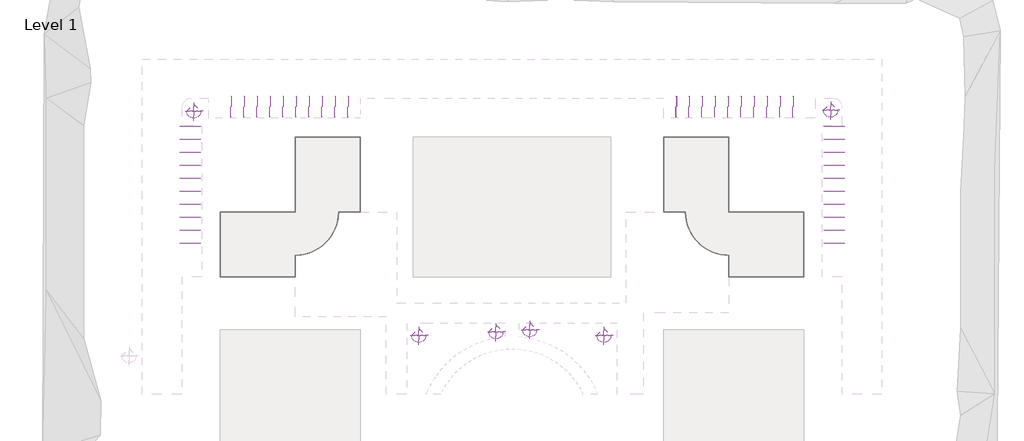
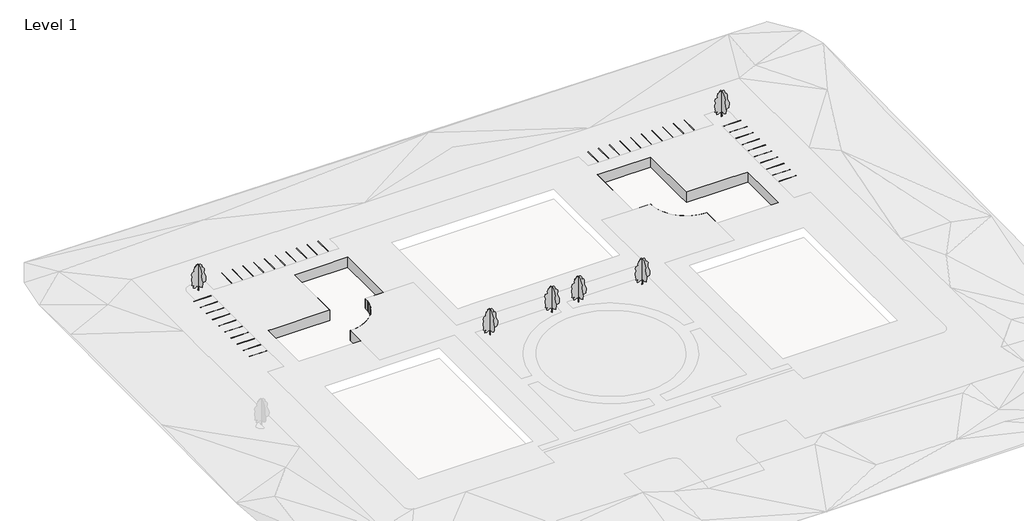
# One storey, part 3 of 3: 43 proxies, 6 geographic elements.
"""IFC4 building model written with IfcOpenShell, lengths in millimetres."""

from ifc_helpers import new_model, si_unit, origin, place, context, project, spatial, triangles, transform, mapped, element, save
from components import m_parking_space_4800_x_2400mm_90_deg_2b7ae786, m_parking_space_4800_x_2400mm_90_deg_cf846cf7, m_rpc_tree_deciduous_red_ash_7_6_meters_40acba24

model = new_model("IFC4")

# Units and contexts
model_context = context("Model", 3, world=origin())
ifc_project = project(units=[si_unit("LENGTHUNIT", "METRE", prefix="MILLI")], contexts=[model_context])

# Site, building, storey
site = spatial("IfcSite", under=ifc_project)
building = spatial("IfcBuilding", under=site)
storey = spatial("IfcBuildingStorey", under=building, Name="Level 1", Elevation=0.0)

# Proxies
placement = place(None, origin())
element("IfcBuildingElementProxy", 1, Name="Building Element Proxy", at=placement, inside=storey, context=model_context, shape_type="Tessellation", body=[
    triangles([(-35191.6798462, 32541.3578979, -304.9595106), (-35191.6798462, 32541.3578979, 3049.9998779), (-35191.6798462, 48882.337207, -304.9595106), (-35191.6798462, 48882.337207, 3049.9998779), (-35191.6798462, 49849.357251, -304.9595106), (-35191.6798462, 49849.357251, 3049.9998779), (-43466.7003296, 49849.357251, -304.9595106), (-43466.7003296, 49849.357251, 3049.9998779), (-50191.680542, 49849.357251, -304.9595106), (-50191.680542, 49849.357251, 3049.9998779), (-50191.680542, 44684.7283081, -304.9595106), (-50191.680542, 44684.7283081, 3049.9998779), (-50191.680542, 32541.3578979, -304.9595106), (-50191.680542, 32541.3578979, 3049.9998779), (-66003.8409668, 32541.3578979, -304.9595106), (-66003.8409668, 32541.3578979, 3049.9998779), (-67499.679895, 32541.3578979, -304.9595106), (-67499.679895, 32541.3578979, 3049.9998779), (-67499.679895, 31392.5861572, -304.9595106), (-67499.679895, 31392.5861572, 3049.9998779), (-67499.679895, 17541.3572021, -304.9595106), (-67499.679895, 17541.3572021, 3049.9998779)], [[1, 4, 2], [1, 3, 4], [3, 6, 4], [3, 5, 6], [5, 8, 6], [5, 7, 8], [7, 10, 8], [7, 9, 10], [9, 12, 10], [9, 11, 12], [11, 14, 12], [11, 13, 14], [13, 16, 14], [13, 15, 16], [15, 18, 16], [15, 17, 18], [17, 20, 18], [17, 19, 20], [19, 22, 20], [19, 21, 22]], closed=False),
    triangles([(-67499.679895, 17541.3572021, -304.9595106), (-67499.679895, 17541.3572021, 3049.9998779), (-60277.078894, 17541.3572021, -304.9595106), (-60277.078894, 17541.3572021, 3049.9998779), (-50191.680542, 17541.3572021, -304.9595106), (-50191.680542, 17541.3572021, 3049.9998779)], [[1, 4, 2], [1, 3, 4], [3, 6, 4], [3, 5, 6]], closed=False),
    triangles([(-50191.680542, 17541.3572021, -304.9595106), (-50191.680542, 17541.3572021, 3049.9998779), (-50191.680542, 22541.3566589, -304.9595106), (-50191.680542, 22541.3566589, 3049.9998779), (-49211.5078125, 22589.5095337, -304.9595106), (-49211.5078125, 22589.5095337, 3049.9998779), (-48240.7763672, 22733.5053955, -304.9595106), (-48240.7763672, 22733.5053955, 3049.9998779), (-47288.8344727, 22971.9536316, -304.9595106), (-47288.8344727, 22971.9536316, 3049.9998779), (-46364.8443604, 23302.5613586, -304.9595106), (-46364.8443604, 23302.5613586, 3049.9998779), (-45477.7124634, 23722.14505, -304.9595106), (-45477.7124634, 23722.14505, 3049.9998779), (-44635.9777954, 24226.6607666, -304.9595106), (-44635.9777954, 24226.6607666, 3049.9998779), (-43847.7468384, 24811.2529907, -304.9595106), (-43847.7468384, 24811.2529907, 3049.9998779), (-43120.6144775, 25470.2895081, -304.9595106), (-43120.6144775, 25470.2895081, 3049.9998779), (-42461.5756348, 26197.4241943, -304.9595106), (-42461.5756348, 26197.4241943, 3049.9998779), (-41876.9834106, 26985.6551514, -304.9595106), (-41876.9834106, 26985.6551514, 3049.9998779), (-41372.4700195, 27827.3898193, -304.9595106), (-41372.4700195, 27827.3898193, 3049.9998779), (-40952.8863281, 28714.5240417, -304.9595106), (-40952.8863281, 28714.5240417, 3049.9998779), (-40622.2786011, 29638.5095032, -304.9595106), (-40622.2786011, 29638.5095032, 3049.9998779), (-40383.8280396, 30590.4537231, -304.9595106), (-40383.8280396, 30590.4537231, 3049.9998779), (-40239.8321777, 31561.1851685, -304.9595106), (-40239.8321777, 31561.1851685, 3049.9998779), (-40191.6816284, 32541.3578979, -304.9595106), (-40191.6816284, 32541.3578979, 3049.9998779), (-35191.6798462, 32541.3578979, -304.9595106), (-35191.6798462, 32541.3578979, 3049.9998779)], [[1, 4, 2], [1, 3, 4], [3, 6, 4], [3, 5, 6], [5, 8, 6], [5, 7, 8], [7, 10, 8], [7, 9, 10], [9, 12, 10], [9, 11, 12], [11, 14, 12], [11, 13, 14], [13, 16, 14], [13, 15, 16], [15, 18, 16], [15, 17, 18], [17, 20, 18], [17, 19, 20], [19, 22, 20], [19, 21, 22], [21, 24, 22], [21, 23, 24], [23, 26, 24], [23, 25, 26], [25, 28, 26], [25, 27, 28], [27, 30, 28], [27, 29, 30], [29, 32, 30], [29, 31, 32], [31, 34, 32], [31, 33, 34], [33, 36, 34], [33, 35, 36], [35, 38, 36], [35, 37, 38]], closed=False),
    triangles([(-67499.679895, 17541.3572021, -304.9595106), (-50191.680542, 17541.3572021, -304.9595106), (-50191.680542, 22541.3566589, -304.9595106), (-49211.5078125, 22589.5095337, -304.9595106), (-48240.7763672, 22733.5053955, -304.9595106), (-47288.8344727, 22971.9536316, -304.9595106), (-46364.8443604, 23302.5613586, -304.9595106), (-45477.7124634, 23722.14505, -304.9595106), (-44635.9777954, 24226.6607666, -304.9595106), (-43847.7468384, 24811.2529907, -304.9595106), (-43120.6144775, 25470.2895081, -304.9595106), (-42461.5756348, 26197.4241943, -304.9595106), (-41876.9834106, 26985.6551514, -304.9595106), (-41372.4700195, 27827.3898193, -304.9595106), (-40952.8863281, 28714.5240417, -304.9595106), (-40622.2786011, 29638.5095032, -304.9595106), (-40383.8280396, 30590.4537231, -304.9595106), (-40239.8321777, 31561.1851685, -304.9595106), (-40191.6816284, 32541.3578979, -304.9595106), (-35191.6798462, 32541.3578979, -304.9595106), (-35191.6798462, 49849.357251, -304.9595106), (-50191.680542, 49849.357251, -304.9595106), (-50191.680542, 32541.3578979, -304.9595106), (-67499.679895, 32541.3578979, -304.9595106)], [[1, 2, 3], [1, 3, 24], [23, 4, 5], [4, 23, 3], [23, 5, 6], [24, 3, 23], [19, 22, 23], [8, 9, 23], [8, 23, 7], [6, 7, 23], [10, 23, 9], [23, 11, 12], [23, 12, 13], [14, 15, 23], [14, 23, 13], [15, 16, 23], [17, 18, 23], [23, 18, 19], [19, 20, 21], [21, 22, 19], [23, 16, 17], [23, 10, 11]], closed=False),
])
element("IfcBuildingElementProxy", 2, Name="Building Element Proxy", at=placement, inside=storey, context=model_context, shape_type="Tessellation", body=[
    triangles([(49808.3178955, 17541.3572021, -304.9595106), (49808.3178955, 17541.3572021, 3049.9998779), (67116.3172485, 17541.3572021, -304.9595106), (67116.3172485, 17541.3572021, 3049.9998779)], [[1, 4, 2], [1, 3, 4]], closed=False),
    triangles([(67116.3172485, 17541.3572021, -304.9595106), (67116.3172485, 17541.3572021, 3049.9998779), (67116.3172485, 23284.5205994, -304.9595106), (67116.3172485, 23284.5205994, 3049.9998779), (67116.3172485, 32541.3578979, -304.9595106), (67116.3172485, 32541.3578979, 3049.9998779), (62183.8555298, 32541.3578979, -304.9595106), (62183.8555298, 32541.3578979, 3049.9998779), (49808.3178955, 32541.3578979, -304.9595106), (49808.3178955, 32541.3578979, 3049.9998779), (49808.3178955, 49849.357251, -304.9595106), (49808.3178955, 49849.357251, 3049.9998779), (40850.0833008, 49849.357251, -304.9595106), (40850.0833008, 49849.357251, 3049.9998779), (34808.3195251, 49849.357251, -304.9595106), (34808.3195251, 49849.357251, 3049.9998779), (34808.3195251, 32541.3578979, -304.9595106), (34808.3195251, 32541.3578979, 3049.9998779)], [[1, 4, 2], [1, 3, 4], [3, 6, 4], [3, 5, 6], [5, 8, 6], [5, 7, 8], [7, 10, 8], [7, 9, 10], [9, 12, 10], [9, 11, 12], [11, 14, 12], [11, 13, 14], [13, 16, 14], [13, 15, 16], [15, 18, 16], [15, 17, 18]], closed=False),
    triangles([(34808.3195251, 32541.3578979, -304.9595106), (34808.3195251, 32541.3578979, 3049.9998779), (38450.1437439, 32541.3578979, -304.9595106), (38450.1437439, 32541.3578979, 3049.9998779), (39808.3189819, 32541.3578979, -304.9595106), (39808.3189819, 32541.3578979, 3049.9998779), (39856.4695313, 31561.1851685, -304.9595106), (39856.4695313, 31561.1851685, 3049.9998779), (40000.4653931, 30590.4537231, -304.9595106), (40000.4653931, 30590.4537231, 3049.9998779), (40238.9159546, 29638.5095032, -304.9595106), (40238.9159546, 29638.5095032, 3049.9998779), (40569.5236816, 28714.5240417, -304.9595106), (40569.5236816, 28714.5240417, 3049.9998779), (40989.107373, 27827.3898193, -304.9595106), (40989.107373, 27827.3898193, 3049.9998779), (41493.6207642, 26985.6551514, -304.9595106), (41493.6207642, 26985.6551514, 3049.9998779), (42078.2129883, 26197.4241943, -304.9595106), (42078.2129883, 26197.4241943, 3049.9998779), (42737.2518311, 25470.2895081, -304.9595106), (42737.2518311, 25470.2895081, 3049.9998779), (43464.3841919, 24811.2529907, -304.9595106), (43464.3841919, 24811.2529907, 3049.9998779), (44252.6151489, 24226.6607666, -304.9595106), (44252.6151489, 24226.6607666, 3049.9998779), (45094.3498169, 23722.14505, -304.9595106), (45094.3498169, 23722.14505, 3049.9998779), (45981.4863647, 23302.5613586, -304.9595106), (45981.4863647, 23302.5613586, 3049.9998779), (46905.4718262, 22971.9536316, -304.9595106), (46905.4718262, 22971.9536316, 3049.9998779), (47857.4137207, 22733.5053955, -304.9595106), (47857.4137207, 22733.5053955, 3049.9998779), (48828.1498169, 22589.5095337, -304.9595106), (48828.1498169, 22589.5095337, 3049.9998779), (49808.3178955, 22541.3566589, -304.9595106), (49808.3178955, 22541.3566589, 3049.9998779), (49808.3178955, 17541.3572021, -304.9595106), (49808.3178955, 17541.3572021, 3049.9998779)], [[1, 4, 2], [1, 3, 4], [3, 6, 4], [3, 5, 6], [5, 8, 6], [5, 7, 8], [7, 10, 8], [7, 9, 10], [9, 12, 10], [9, 11, 12], [11, 14, 12], [11, 13, 14], [13, 16, 14], [13, 15, 16], [15, 18, 16], [15, 17, 18], [17, 20, 18], [17, 19, 20], [19, 22, 20], [19, 21, 22], [21, 24, 22], [21, 23, 24], [23, 26, 24], [23, 25, 26], [25, 28, 26], [25, 27, 28], [27, 30, 28], [27, 29, 30], [29, 32, 30], [29, 31, 32], [31, 34, 32], [31, 33, 34], [33, 36, 34], [33, 35, 36], [35, 38, 36], [35, 37, 38], [37, 40, 38], [37, 39, 40]], closed=False),
    triangles([(67116.3172485, 17541.3572021, -304.9595106), (67116.3172485, 32541.3578979, -304.9595106), (49808.3178955, 32541.3578979, -304.9595106), (49808.3178955, 49849.357251, -304.9595106), (34808.3195251, 49849.357251, -304.9595106), (34808.3195251, 32541.3578979, -304.9595106), (39808.3189819, 32541.3578979, -304.9595106), (39856.4695313, 31561.1851685, -304.9595106), (40000.4653931, 30590.4537231, -304.9595106), (40238.9159546, 29638.5095032, -304.9595106), (40569.5236816, 28714.5240417, -304.9595106), (40989.107373, 27827.3898193, -304.9595106), (41493.6207642, 26985.6551514, -304.9595106), (42078.2129883, 26197.4241943, -304.9595106), (42737.2518311, 25470.2895081, -304.9595106), (43464.3841919, 24811.2529907, -304.9595106), (44252.6151489, 24226.6607666, -304.9595106), (45094.3498169, 23722.14505, -304.9595106), (45981.4863647, 23302.5613586, -304.9595106), (46905.4718262, 22971.9536316, -304.9595106), (47857.4137207, 22733.5053955, -304.9595106), (48828.1498169, 22589.5095337, -304.9595106), (49808.3178955, 22541.3566589, -304.9595106), (49808.3178955, 17541.3572021, -304.9595106)], [[11, 3, 10], [11, 12, 3], [14, 3, 13], [3, 12, 13], [15, 3, 14], [5, 6, 7], [4, 5, 7], [3, 8, 9], [8, 3, 7], [10, 3, 9], [3, 15, 16], [21, 3, 20], [22, 3, 21], [24, 1, 23], [23, 1, 2], [23, 3, 22], [3, 17, 18], [3, 18, 19], [4, 7, 3], [3, 19, 20], [23, 2, 3], [3, 16, 17]], closed=False),
])
m_parking_space_4800_x_2400mm_90_deg_shape = m_parking_space_4800_x_2400mm_90_deg_2b7ae786(model_context)
element("IfcBuildingElementProxy", 3, Name="M_Parking Space : 4800 x 2400mm - 90 deg", ObjectType="M_Parking Space : 4800 x 2400mm - 90 deg", at=placement, inside=storey, context=model_context, shape_type="MappedRepresentation", body=[
    mapped(m_parking_space_4800_x_2400mm_90_deg_shape, transform((-72091.6809312, 52283.3477296, 3050.7803686), x_axis=(0.0, -1.0, 0.0), y_axis=(1.0, 0.0, 0.0), z_axis=(0.0, 0.0, 1.0))),
])
element("IfcBuildingElementProxy", 4, Name="M_Parking Space : 4800 x 2400mm - 90 deg", ObjectType="M_Parking Space : 4800 x 2400mm - 90 deg", at=placement, inside=storey, context=model_context, shape_type="MappedRepresentation", body=[
    mapped(m_parking_space_4800_x_2400mm_90_deg_shape, transform((-72091.6809312, 49283.3477296, 3050.7803686), x_axis=(0.0, -1.0, 0.0), y_axis=(1.0, 0.0, 0.0), z_axis=(0.0, 0.0, 1.0))),
])
element("IfcBuildingElementProxy", 5, Name="M_Parking Space : 4800 x 2400mm - 90 deg", ObjectType="M_Parking Space : 4800 x 2400mm - 90 deg", at=placement, inside=storey, context=model_context, shape_type="MappedRepresentation", body=[
    mapped(m_parking_space_4800_x_2400mm_90_deg_shape, transform((-72091.6809312, 46283.3477296, 3050.7803686), x_axis=(0.0, -1.0, 0.0), y_axis=(1.0, 0.0, 0.0), z_axis=(0.0, 0.0, 1.0))),
])
element("IfcBuildingElementProxy", 6, Name="M_Parking Space : 4800 x 2400mm - 90 deg", ObjectType="M_Parking Space : 4800 x 2400mm - 90 deg", at=placement, inside=storey, context=model_context, shape_type="MappedRepresentation", body=[
    mapped(m_parking_space_4800_x_2400mm_90_deg_shape, transform((-72091.6809312, 43283.3477296, 3050.7803686), x_axis=(0.0, -1.0, 0.0), y_axis=(1.0, 0.0, 0.0), z_axis=(0.0, 0.0, 1.0))),
])
element("IfcBuildingElementProxy", 7, Name="M_Parking Space : 4800 x 2400mm - 90 deg", ObjectType="M_Parking Space : 4800 x 2400mm - 90 deg", at=placement, inside=storey, context=model_context, shape_type="MappedRepresentation", body=[
    mapped(m_parking_space_4800_x_2400mm_90_deg_shape, transform((-72091.6809312, 40283.3477296, 3050.7803686), x_axis=(0.0, -1.0, 0.0), y_axis=(1.0, 0.0, 0.0), z_axis=(0.0, 0.0, 1.0))),
])
element("IfcBuildingElementProxy", 8, Name="M_Parking Space : 4800 x 2400mm - 90 deg", ObjectType="M_Parking Space : 4800 x 2400mm - 90 deg", at=placement, inside=storey, context=model_context, shape_type="MappedRepresentation", body=[
    mapped(m_parking_space_4800_x_2400mm_90_deg_shape, transform((-72091.6809312, 37283.3477296, 3050.7803686), x_axis=(0.0, -1.0, 0.0), y_axis=(1.0, 0.0, 0.0), z_axis=(0.0, 0.0, 1.0))),
])
element("IfcBuildingElementProxy", 9, Name="M_Parking Space : 4800 x 2400mm - 90 deg", ObjectType="M_Parking Space : 4800 x 2400mm - 90 deg", at=placement, inside=storey, context=model_context, shape_type="MappedRepresentation", body=[
    mapped(m_parking_space_4800_x_2400mm_90_deg_shape, transform((-72091.6809312, 34283.3477296, 3050.7803686), x_axis=(0.0, -1.0, 0.0), y_axis=(1.0, 0.0, 0.0), z_axis=(0.0, 0.0, 1.0))),
])
element("IfcBuildingElementProxy", 10, Name="M_Parking Space : 4800 x 2400mm - 90 deg", ObjectType="M_Parking Space : 4800 x 2400mm - 90 deg", at=placement, inside=storey, context=model_context, shape_type="MappedRepresentation", body=[
    mapped(m_parking_space_4800_x_2400mm_90_deg_shape, transform((-72091.6809312, 31283.3477296, 3050.7803686), x_axis=(0.0, -1.0, 0.0), y_axis=(1.0, 0.0, 0.0), z_axis=(0.0, 0.0, 1.0))),
])
element("IfcBuildingElementProxy", 11, Name="M_Parking Space : 4800 x 2400mm - 90 deg", ObjectType="M_Parking Space : 4800 x 2400mm - 90 deg", at=placement, inside=storey, context=model_context, shape_type="MappedRepresentation", body=[
    mapped(m_parking_space_4800_x_2400mm_90_deg_shape, transform((-72091.6809312, 28283.3477296, 3050.7803686), x_axis=(0.0, -1.0, 0.0), y_axis=(1.0, 0.0, 0.0), z_axis=(0.0, 0.0, 1.0))),
])
element("IfcBuildingElementProxy", 12, Name="M_Parking Space : 4800 x 2400mm - 90 deg", ObjectType="M_Parking Space : 4800 x 2400mm - 90 deg", at=placement, inside=storey, context=model_context, shape_type="MappedRepresentation", body=[
    mapped(m_parking_space_4800_x_2400mm_90_deg_shape, transform((-72091.6809312, 25283.3477296, 3050.7803686), x_axis=(0.0, -1.0, 0.0), y_axis=(1.0, 0.0, 0.0), z_axis=(0.0, 0.0, 1.0))),
])
element("IfcBuildingElementProxy", 13, Name="M_Parking Space : 4800 x 2400mm - 90 deg", ObjectType="M_Parking Space : 4800 x 2400mm - 90 deg", at=placement, inside=storey, context=model_context, shape_type="MappedRepresentation", body=[
    mapped(m_parking_space_4800_x_2400mm_90_deg_shape, transform((37727.0851752, 54488.1216781, 2766.1912155), x_axis=(-1.0, 0.0, 0.0), y_axis=(0.0, -1.0, 0.0), z_axis=(0.0, 0.0, 1.0))),
])
element("IfcBuildingElementProxy", 14, Name="M_Parking Space : 4800 x 2400mm - 90 deg", ObjectType="M_Parking Space : 4800 x 2400mm - 90 deg", at=placement, inside=storey, context=model_context, shape_type="MappedRepresentation", body=[
    mapped(m_parking_space_4800_x_2400mm_90_deg_shape, transform((37676.2851752, 54488.1216781, 3050.7803686), x_axis=(-1.0, 0.0, 0.0), y_axis=(0.0, -1.0, 0.0), z_axis=(0.0, 0.0, 1.0))),
])
element("IfcBuildingElementProxy", 15, Name="M_Parking Space : 4800 x 2400mm - 90 deg", ObjectType="M_Parking Space : 4800 x 2400mm - 90 deg", at=placement, inside=storey, context=model_context, shape_type="MappedRepresentation", body=[
    mapped(m_parking_space_4800_x_2400mm_90_deg_shape, transform((40676.2851752, 54488.1216781, 3050.7803686), x_axis=(-1.0, 0.0, 0.0), y_axis=(0.0, -1.0, 0.0), z_axis=(0.0, 0.0, 1.0))),
])
element("IfcBuildingElementProxy", 16, Name="M_Parking Space : 4800 x 2400mm - 90 deg", ObjectType="M_Parking Space : 4800 x 2400mm - 90 deg", at=placement, inside=storey, context=model_context, shape_type="MappedRepresentation", body=[
    mapped(m_parking_space_4800_x_2400mm_90_deg_shape, transform((43676.2851752, 54488.1216781, 3050.7803686), x_axis=(-1.0, 0.0, 0.0), y_axis=(0.0, -1.0, 0.0), z_axis=(0.0, 0.0, 1.0))),
])
element("IfcBuildingElementProxy", 17, Name="M_Parking Space : 4800 x 2400mm - 90 deg", ObjectType="M_Parking Space : 4800 x 2400mm - 90 deg", at=placement, inside=storey, context=model_context, shape_type="MappedRepresentation", body=[
    mapped(m_parking_space_4800_x_2400mm_90_deg_shape, transform((46676.2851752, 54488.1216781, 3050.7803686), x_axis=(-1.0, 0.0, 0.0), y_axis=(0.0, -1.0, 0.0), z_axis=(0.0, 0.0, 1.0))),
])
element("IfcBuildingElementProxy", 18, Name="M_Parking Space : 4800 x 2400mm - 90 deg", ObjectType="M_Parking Space : 4800 x 2400mm - 90 deg", at=placement, inside=storey, context=model_context, shape_type="MappedRepresentation", body=[
    mapped(m_parking_space_4800_x_2400mm_90_deg_shape, transform((49676.2851752, 54488.1216781, 3050.7803686), x_axis=(-1.0, 0.0, 0.0), y_axis=(0.0, -1.0, 0.0), z_axis=(0.0, 0.0, 1.0))),
])
element("IfcBuildingElementProxy", 19, Name="M_Parking Space : 4800 x 2400mm - 90 deg", ObjectType="M_Parking Space : 4800 x 2400mm - 90 deg", at=placement, inside=storey, context=model_context, shape_type="MappedRepresentation", body=[
    mapped(m_parking_space_4800_x_2400mm_90_deg_shape, transform((52676.2851752, 54488.1216781, 3050.7803686), x_axis=(-1.0, 0.0, 0.0), y_axis=(0.0, -1.0, 0.0), z_axis=(0.0, 0.0, 1.0))),
])
element("IfcBuildingElementProxy", 20, Name="M_Parking Space : 4800 x 2400mm - 90 deg", ObjectType="M_Parking Space : 4800 x 2400mm - 90 deg", at=placement, inside=storey, context=model_context, shape_type="MappedRepresentation", body=[
    mapped(m_parking_space_4800_x_2400mm_90_deg_shape, transform((55676.2851752, 54488.1216781, 3050.7803686), x_axis=(-1.0, 0.0, 0.0), y_axis=(0.0, -1.0, 0.0), z_axis=(0.0, 0.0, 1.0))),
])
element("IfcBuildingElementProxy", 21, Name="M_Parking Space : 4800 x 2400mm - 90 deg", ObjectType="M_Parking Space : 4800 x 2400mm - 90 deg", at=placement, inside=storey, context=model_context, shape_type="MappedRepresentation", body=[
    mapped(m_parking_space_4800_x_2400mm_90_deg_shape, transform((58676.2851752, 54488.1216781, 3050.7803686), x_axis=(-1.0, 0.0, 0.0), y_axis=(0.0, -1.0, 0.0), z_axis=(0.0, 0.0, 1.0))),
])
element("IfcBuildingElementProxy", 22, Name="M_Parking Space : 4800 x 2400mm - 90 deg", ObjectType="M_Parking Space : 4800 x 2400mm - 90 deg", at=placement, inside=storey, context=model_context, shape_type="MappedRepresentation", body=[
    mapped(m_parking_space_4800_x_2400mm_90_deg_shape, transform((61676.2851752, 54488.1216781, 3050.7803686), x_axis=(-1.0, 0.0, 0.0), y_axis=(0.0, -1.0, 0.0), z_axis=(0.0, 0.0, 1.0))),
])
element("IfcBuildingElementProxy", 23, Name="M_Parking Space : 4800 x 2400mm - 90 deg", ObjectType="M_Parking Space : 4800 x 2400mm - 90 deg", at=placement, inside=storey, context=model_context, shape_type="MappedRepresentation", body=[
    mapped(m_parking_space_4800_x_2400mm_90_deg_shape, transform((64676.2851752, 54488.1216781, 3050.7803686), x_axis=(-1.0, 0.0, 0.0), y_axis=(0.0, -1.0, 0.0), z_axis=(0.0, 0.0, 1.0))),
])
m_parking_space_4800_x_2400mm_90_deg_2_shape = m_parking_space_4800_x_2400mm_90_deg_cf846cf7(model_context)
element("IfcBuildingElementProxy", 24, Name="M_Parking Space : 4800 x 2400mm - 90 deg", ObjectType="M_Parking Space : 4800 x 2400mm - 90 deg", at=placement, inside=storey, context=model_context, shape_type="MappedRepresentation", body=[
    mapped(m_parking_space_4800_x_2400mm_90_deg_2_shape, transform((71708.3190688, 52283.3477296, 3050.7803686), x_axis=(0.0, -1.0, 0.0), y_axis=(1.0, 0.0, 0.0), z_axis=(0.0, 0.0, 1.0))),
])
element("IfcBuildingElementProxy", 25, Name="M_Parking Space : 4800 x 2400mm - 90 deg", ObjectType="M_Parking Space : 4800 x 2400mm - 90 deg", at=placement, inside=storey, context=model_context, shape_type="MappedRepresentation", body=[
    mapped(m_parking_space_4800_x_2400mm_90_deg_2_shape, transform((71708.3190688, 49283.3477296, 3050.7803686), x_axis=(0.0, -1.0, 0.0), y_axis=(1.0, 0.0, 0.0), z_axis=(0.0, 0.0, 1.0))),
])
element("IfcBuildingElementProxy", 26, Name="M_Parking Space : 4800 x 2400mm - 90 deg", ObjectType="M_Parking Space : 4800 x 2400mm - 90 deg", at=placement, inside=storey, context=model_context, shape_type="MappedRepresentation", body=[
    mapped(m_parking_space_4800_x_2400mm_90_deg_2_shape, transform((71708.3190688, 46283.3477296, 3050.7803686), x_axis=(0.0, -1.0, 0.0), y_axis=(1.0, 0.0, 0.0), z_axis=(0.0, 0.0, 1.0))),
])
element("IfcBuildingElementProxy", 27, Name="M_Parking Space : 4800 x 2400mm - 90 deg", ObjectType="M_Parking Space : 4800 x 2400mm - 90 deg", at=placement, inside=storey, context=model_context, shape_type="MappedRepresentation", body=[
    mapped(m_parking_space_4800_x_2400mm_90_deg_2_shape, transform((71708.3190688, 43283.3477296, 3050.7803686), x_axis=(0.0, -1.0, 0.0), y_axis=(1.0, 0.0, 0.0), z_axis=(0.0, 0.0, 1.0))),
])
element("IfcBuildingElementProxy", 28, Name="M_Parking Space : 4800 x 2400mm - 90 deg", ObjectType="M_Parking Space : 4800 x 2400mm - 90 deg", at=placement, inside=storey, context=model_context, shape_type="MappedRepresentation", body=[
    mapped(m_parking_space_4800_x_2400mm_90_deg_2_shape, transform((71708.3190688, 40283.3477296, 3050.7803686), x_axis=(0.0, -1.0, 0.0), y_axis=(1.0, 0.0, 0.0), z_axis=(0.0, 0.0, 1.0))),
])
element("IfcBuildingElementProxy", 29, Name="M_Parking Space : 4800 x 2400mm - 90 deg", ObjectType="M_Parking Space : 4800 x 2400mm - 90 deg", at=placement, inside=storey, context=model_context, shape_type="MappedRepresentation", body=[
    mapped(m_parking_space_4800_x_2400mm_90_deg_2_shape, transform((71708.3190688, 37283.3477296, 3050.7803686), x_axis=(0.0, -1.0, 0.0), y_axis=(1.0, 0.0, 0.0), z_axis=(0.0, 0.0, 1.0))),
])
element("IfcBuildingElementProxy", 30, Name="M_Parking Space : 4800 x 2400mm - 90 deg", ObjectType="M_Parking Space : 4800 x 2400mm - 90 deg", at=placement, inside=storey, context=model_context, shape_type="MappedRepresentation", body=[
    mapped(m_parking_space_4800_x_2400mm_90_deg_2_shape, transform((71708.3190688, 34283.3477296, 3050.7803686), x_axis=(0.0, -1.0, 0.0), y_axis=(1.0, 0.0, 0.0), z_axis=(0.0, 0.0, 1.0))),
])
element("IfcBuildingElementProxy", 31, Name="M_Parking Space : 4800 x 2400mm - 90 deg", ObjectType="M_Parking Space : 4800 x 2400mm - 90 deg", at=placement, inside=storey, context=model_context, shape_type="MappedRepresentation", body=[
    mapped(m_parking_space_4800_x_2400mm_90_deg_2_shape, transform((71708.3190688, 31283.3477296, 3050.7803686), x_axis=(0.0, -1.0, 0.0), y_axis=(1.0, 0.0, 0.0), z_axis=(0.0, 0.0, 1.0))),
])
element("IfcBuildingElementProxy", 32, Name="M_Parking Space : 4800 x 2400mm - 90 deg", ObjectType="M_Parking Space : 4800 x 2400mm - 90 deg", at=placement, inside=storey, context=model_context, shape_type="MappedRepresentation", body=[
    mapped(m_parking_space_4800_x_2400mm_90_deg_2_shape, transform((71708.3190688, 28283.3477296, 3050.7803686), x_axis=(0.0, -1.0, 0.0), y_axis=(1.0, 0.0, 0.0), z_axis=(0.0, 0.0, 1.0))),
])
element("IfcBuildingElementProxy", 33, Name="M_Parking Space : 4800 x 2400mm - 90 deg", ObjectType="M_Parking Space : 4800 x 2400mm - 90 deg", at=placement, inside=storey, context=model_context, shape_type="MappedRepresentation", body=[
    mapped(m_parking_space_4800_x_2400mm_90_deg_2_shape, transform((71708.3190688, 25283.3477296, 3050.7803686), x_axis=(0.0, -1.0, 0.0), y_axis=(1.0, 0.0, 0.0), z_axis=(0.0, 0.0, 1.0))),
])
element("IfcBuildingElementProxy", 34, Name="M_Parking Space : 4800 x 2400mm - 90 deg", ObjectType="M_Parking Space : 4800 x 2400mm - 90 deg", at=placement, inside=storey, context=model_context, shape_type="MappedRepresentation", body=[
    mapped(m_parking_space_4800_x_2400mm_90_deg_2_shape, transform((-38059.6470376, 54488.1216781, 3050.7803686), x_axis=(1.0, 0.0, 0.0), y_axis=(0.0, 1.0, 0.0), z_axis=(0.0, 0.0, 1.0))),
])
element("IfcBuildingElementProxy", 35, Name="M_Parking Space : 4800 x 2400mm - 90 deg", ObjectType="M_Parking Space : 4800 x 2400mm - 90 deg", at=placement, inside=storey, context=model_context, shape_type="MappedRepresentation", body=[
    mapped(m_parking_space_4800_x_2400mm_90_deg_2_shape, transform((-41059.6470376, 54488.1216781, 3050.7803686), x_axis=(1.0, 0.0, 0.0), y_axis=(0.0, 1.0, 0.0), z_axis=(0.0, 0.0, 1.0))),
])
element("IfcBuildingElementProxy", 36, Name="M_Parking Space : 4800 x 2400mm - 90 deg", ObjectType="M_Parking Space : 4800 x 2400mm - 90 deg", at=placement, inside=storey, context=model_context, shape_type="MappedRepresentation", body=[
    mapped(m_parking_space_4800_x_2400mm_90_deg_2_shape, transform((-44059.6470376, 54488.1216781, 3050.7803686), x_axis=(1.0, 0.0, 0.0), y_axis=(0.0, 1.0, 0.0), z_axis=(0.0, 0.0, 1.0))),
])
element("IfcBuildingElementProxy", 37, Name="M_Parking Space : 4800 x 2400mm - 90 deg", ObjectType="M_Parking Space : 4800 x 2400mm - 90 deg", at=placement, inside=storey, context=model_context, shape_type="MappedRepresentation", body=[
    mapped(m_parking_space_4800_x_2400mm_90_deg_2_shape, transform((-47059.6470376, 54488.1216781, 3050.7803686), x_axis=(1.0, 0.0, 0.0), y_axis=(0.0, 1.0, 0.0), z_axis=(0.0, 0.0, 1.0))),
])
element("IfcBuildingElementProxy", 38, Name="M_Parking Space : 4800 x 2400mm - 90 deg", ObjectType="M_Parking Space : 4800 x 2400mm - 90 deg", at=placement, inside=storey, context=model_context, shape_type="MappedRepresentation", body=[
    mapped(m_parking_space_4800_x_2400mm_90_deg_2_shape, transform((-50059.6470376, 54488.1216781, 3050.7803686), x_axis=(1.0, 0.0, 0.0), y_axis=(0.0, 1.0, 0.0), z_axis=(0.0, 0.0, 1.0))),
])
element("IfcBuildingElementProxy", 39, Name="M_Parking Space : 4800 x 2400mm - 90 deg", ObjectType="M_Parking Space : 4800 x 2400mm - 90 deg", at=placement, inside=storey, context=model_context, shape_type="MappedRepresentation", body=[
    mapped(m_parking_space_4800_x_2400mm_90_deg_2_shape, transform((-53059.6470376, 54488.1216781, 3050.7803686), x_axis=(1.0, 0.0, 0.0), y_axis=(0.0, 1.0, 0.0), z_axis=(0.0, 0.0, 1.0))),
])
element("IfcBuildingElementProxy", 40, Name="M_Parking Space : 4800 x 2400mm - 90 deg", ObjectType="M_Parking Space : 4800 x 2400mm - 90 deg", at=placement, inside=storey, context=model_context, shape_type="MappedRepresentation", body=[
    mapped(m_parking_space_4800_x_2400mm_90_deg_2_shape, transform((-56059.6470376, 54488.1216781, 3050.7803686), x_axis=(1.0, 0.0, 0.0), y_axis=(0.0, 1.0, 0.0), z_axis=(0.0, 0.0, 1.0))),
])
element("IfcBuildingElementProxy", 41, Name="M_Parking Space : 4800 x 2400mm - 90 deg", ObjectType="M_Parking Space : 4800 x 2400mm - 90 deg", at=placement, inside=storey, context=model_context, shape_type="MappedRepresentation", body=[
    mapped(m_parking_space_4800_x_2400mm_90_deg_2_shape, transform((-59059.6470376, 54488.1216781, 3050.7803686), x_axis=(1.0, 0.0, 0.0), y_axis=(0.0, 1.0, 0.0), z_axis=(0.0, 0.0, 1.0))),
])
element("IfcBuildingElementProxy", 42, Name="M_Parking Space : 4800 x 2400mm - 90 deg", ObjectType="M_Parking Space : 4800 x 2400mm - 90 deg", at=placement, inside=storey, context=model_context, shape_type="MappedRepresentation", body=[
    mapped(m_parking_space_4800_x_2400mm_90_deg_2_shape, transform((-62059.6470376, 54488.1216781, 3050.7803686), x_axis=(1.0, 0.0, 0.0), y_axis=(0.0, 1.0, 0.0), z_axis=(0.0, 0.0, 1.0))),
])
element("IfcBuildingElementProxy", 43, Name="M_Parking Space : 4800 x 2400mm - 90 deg", ObjectType="M_Parking Space : 4800 x 2400mm - 90 deg", at=placement, inside=storey, context=model_context, shape_type="MappedRepresentation", body=[
    mapped(m_parking_space_4800_x_2400mm_90_deg_2_shape, transform((-65059.6470376, 54488.1216781, 3050.7803686), x_axis=(1.0, 0.0, 0.0), y_axis=(0.0, 1.0, 0.0), z_axis=(0.0, 0.0, 1.0))),
])

# Geographic elements
m_rpc_tree_deciduous_red_ash_7_6_meters_shape = m_rpc_tree_deciduous_red_ash_7_6_meters_40acba24(model_context)
element("IfcGeographicElement", 44, ObjectType="M_RPC Tree - Deciduous : Red Ash - 7.6 Meters", at=placement, inside=storey, context=model_context, shape_type="MappedRepresentation", body=[
    mapped(m_rpc_tree_deciduous_red_ash_7_6_meters_shape, transform((-73599.6809312, 55840.3573763, 3050.0), x_axis=(1.0, 0.0, 0.0), y_axis=(0.0, 1.0, 0.0), z_axis=(0.0, 0.0, 1.0))),
])
element("IfcGeographicElement", 45, ObjectType="M_RPC Tree - Deciduous : Red Ash - 7.6 Meters", at=placement, inside=storey, context=model_context, shape_type="MappedRepresentation", body=[
    mapped(m_rpc_tree_deciduous_red_ash_7_6_meters_shape, transform((73307.3190688, 56040.3573763, 3050.0), x_axis=(1.0, 0.0, 0.0), y_axis=(0.0, 1.0, 0.0), z_axis=(0.0, 0.0, 1.0))),
])
element("IfcGeographicElement", 46, ObjectType="M_RPC Tree - Deciduous : Red Ash - 7.6 Meters", at=placement, inside=storey, context=model_context, shape_type="MappedRepresentation", body=[
    mapped(m_rpc_tree_deciduous_red_ash_7_6_meters_shape, transform((-21691.6809312, 4049.3573763, 3050.0), x_axis=(1.0, 0.0, 0.0), y_axis=(0.0, 1.0, 0.0), z_axis=(0.0, 0.0, 1.0))),
])
element("IfcGeographicElement", 47, ObjectType="M_RPC Tree - Deciduous : Red Ash - 7.6 Meters", at=placement, inside=storey, context=model_context, shape_type="MappedRepresentation", body=[
    mapped(m_rpc_tree_deciduous_red_ash_7_6_meters_shape, transform((-3891.6809312, 4849.3573763, 3050.0), x_axis=(1.0, 0.0, 0.0), y_axis=(0.0, 1.0, 0.0), z_axis=(0.0, 0.0, 1.0))),
])
element("IfcGeographicElement", 48, ObjectType="M_RPC Tree - Deciduous : Red Ash - 7.6 Meters", at=placement, inside=storey, context=model_context, shape_type="MappedRepresentation", body=[
    mapped(m_rpc_tree_deciduous_red_ash_7_6_meters_shape, transform((3916.3190688, 5349.3573763, 3050.0), x_axis=(1.0, 0.0, 0.0), y_axis=(0.0, 1.0, 0.0), z_axis=(0.0, 0.0, 1.0))),
])
element("IfcGeographicElement", 49, ObjectType="M_RPC Tree - Deciduous : Red Ash - 7.6 Meters", at=placement, inside=storey, context=model_context, shape_type="MappedRepresentation", body=[
    mapped(m_rpc_tree_deciduous_red_ash_7_6_meters_shape, transform((21016.3190688, 4049.3573763, 3050.0), x_axis=(1.0, 0.0, 0.0), y_axis=(0.0, 1.0, 0.0), z_axis=(0.0, 0.0, 1.0))),
])

save(model, "model.ifc")
